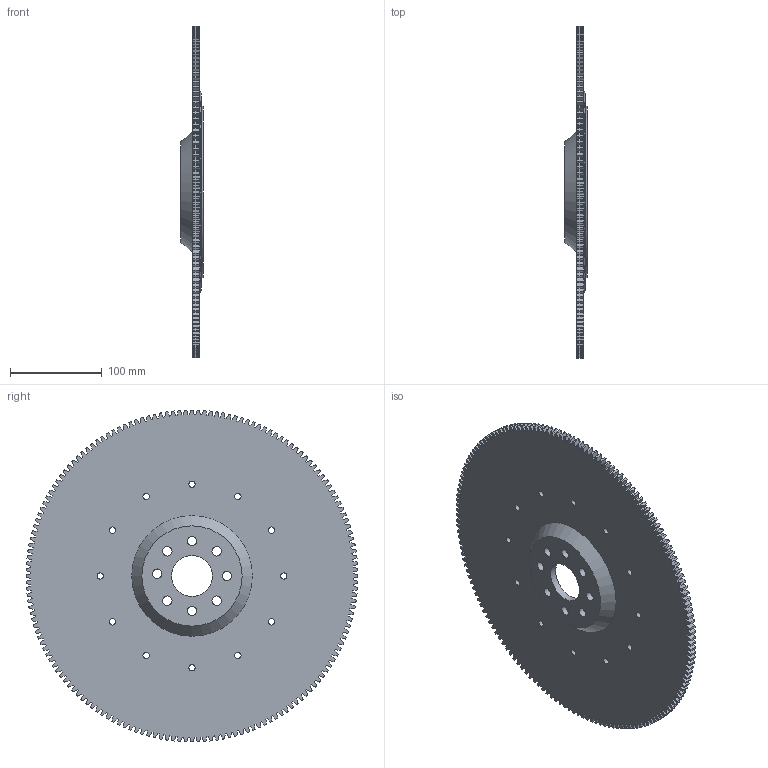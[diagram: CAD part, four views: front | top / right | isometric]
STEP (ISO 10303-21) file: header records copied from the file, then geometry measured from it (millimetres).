
FILE_DESCRIPTION(/* description */ ('Unknown'),/* implementation_level */ '2;1');
FILE_NAME(/* name */ '51-4413 SIMPLE',/* time_stamp */ '2024-03-20T09:05:53-07:00',/* author */ ('Unknown'),/* organization */ ('Unknown'),/* preprocessor_version */ 'ST-DEVELOPER v18.104',/* originating_system */ 'Solid Edge',/* authorisation */ 'Unknown');
FILE_SCHEMA (('AUTOMOTIVE_DESIGN {1 0 10303 214 3 1 1}'));
Length unit declared in the file: millimetre
Products named in the file (1): 51-4413 SIMPLE
Bounding box: 24.89 x 361.75 x 361.75 mm (x, y, z)
Volume: 832703.4 mm3; surface area: 225363.5 mm2
Topology: 1 solids, 1 shells, 709 faces, 2108 edges, 1405 vertices
Faces by surface type: plane 498, cylinder 186, cone 25
Full cylindrical faces by diameter (mm): 6.792 x12, 10.312 x8, 44.463 x1, 186.842 x1
Entity records: 28301 total; most frequent: CARTESIAN_POINT 4134, ORIENTED_EDGE 4080, DIRECTION 3860, EDGE_CURVE 2040, LINE 1640, VECTOR 1640, VERTEX_POINT 1384, AXIS2_PLACEMENT_3D 1110
